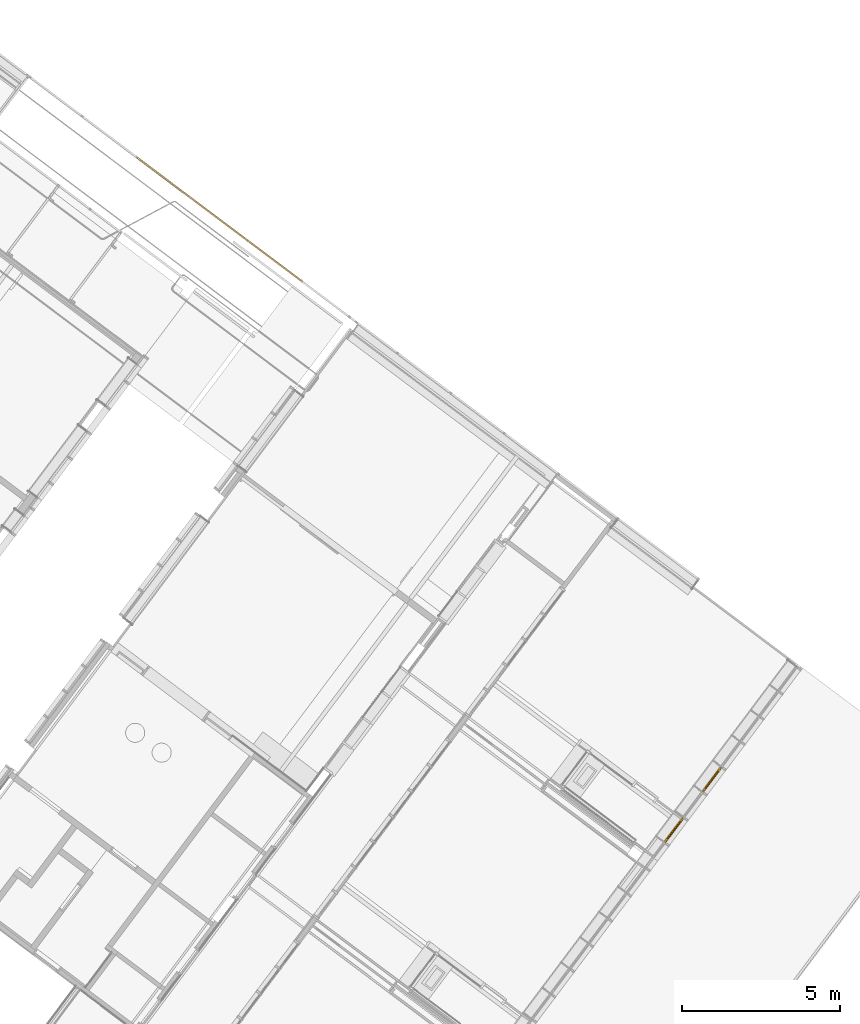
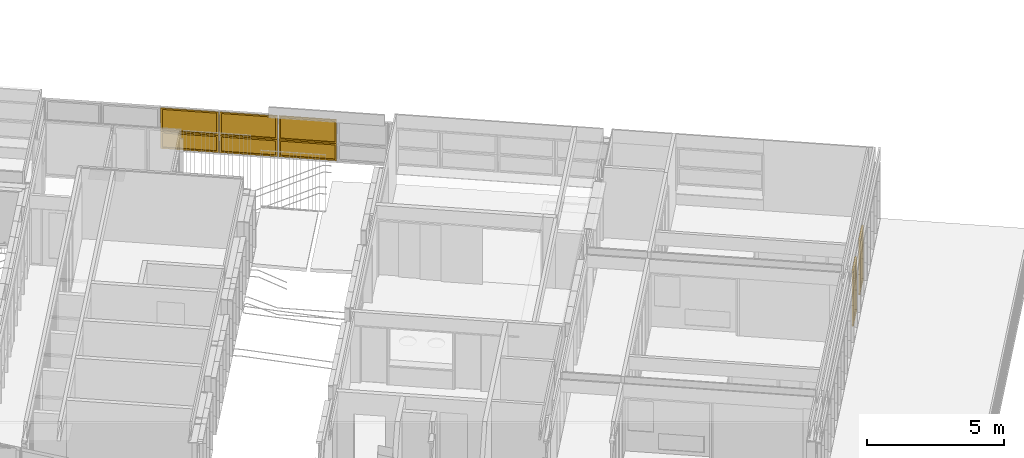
# One storey, part 213 of 243: 6 windows, 2 doors, 2 elements without a shape of their own.
"""IFC2X3 building model written with IfcOpenShell, lengths in metres."""

from ifc_helpers import new_model, entity, si_unit, converted_unit, derived_unit, direction, frame, origin, place, context, subcontext, project, spatial, faceted_brep, source, transform, mapped, material, material_list, type_object, type_shapes, element, aggregate, save


model = new_model("IFC2X3")

# Units and contexts
model_context = context("Model", 3, precision=1e-05, world=origin(), true_north=direction((6.123031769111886e-17, 1.0)))
body_context = subcontext(model_context, "Body", "Model", "MODEL_VIEW")
ifc_project = project(units=[si_unit("LENGTHUNIT", "METRE"), si_unit("AREAUNIT", "SQUARE_METRE"), si_unit("VOLUMEUNIT", "CUBIC_METRE"), converted_unit("PLANEANGLEUNIT", "DEGREE", entity("IfcRatioMeasure", 0.017453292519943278), si_unit("PLANEANGLEUNIT", "RADIAN"), dimensions=[0, 0, 0, 0, 0, 0, 0]), si_unit("MASSUNIT", "GRAM", prefix="KILO"), derived_unit("MASSDENSITYUNIT", [(si_unit("MASSUNIT", "GRAM", prefix="KILO"), 1), (si_unit("LENGTHUNIT", "METRE"), -3)]), derived_unit("IONCONCENTRATIONUNIT", [(si_unit("MASSUNIT", "GRAM", prefix="KILO"), 1), (si_unit("LENGTHUNIT", "METRE"), -3)]), derived_unit("MOMENTOFINERTIAUNIT", [(si_unit("LENGTHUNIT", "METRE"), 4)]), si_unit("TIMEUNIT", "SECOND"), si_unit("FREQUENCYUNIT", "HERTZ"), si_unit("THERMODYNAMICTEMPERATUREUNIT", "DEGREE_CELSIUS"), derived_unit("THERMALTRANSMITTANCEUNIT", [(si_unit("MASSUNIT", "GRAM", prefix="KILO"), 1), (si_unit("THERMODYNAMICTEMPERATUREUNIT", "KELVIN"), -1), (si_unit("TIMEUNIT", "SECOND"), -3)]), derived_unit("THERMALCONDUCTANCEUNIT", [(si_unit("MASSUNIT", "GRAM", prefix="KILO"), 1), (si_unit("THERMODYNAMICTEMPERATUREUNIT", "KELVIN"), -1), (si_unit("TIMEUNIT", "SECOND"), -3), (si_unit("LENGTHUNIT", "METRE"), 1)]), derived_unit("VOLUMETRICFLOWRATEUNIT", [(si_unit("LENGTHUNIT", "METRE"), 3), (si_unit("TIMEUNIT", "SECOND"), -1)]), derived_unit("MASSFLOWRATEUNIT", [(si_unit("MASSUNIT", "GRAM", prefix="KILO"), 1), (si_unit("TIMEUNIT", "SECOND"), -1)]), derived_unit("ROTATIONALFREQUENCYUNIT", [(si_unit("TIMEUNIT", "SECOND"), -1)]), si_unit("ELECTRICCURRENTUNIT", "AMPERE"), si_unit("ELECTRICVOLTAGEUNIT", "VOLT"), si_unit("POWERUNIT", "WATT"), si_unit("FORCEUNIT", "NEWTON", prefix="KILO"), si_unit("ILLUMINANCEUNIT", "LUX"), si_unit("LUMINOUSFLUXUNIT", "LUMEN"), si_unit("LUMINOUSINTENSITYUNIT", "CANDELA"), derived_unit("USERDEFINED", [(si_unit("MASSUNIT", "GRAM", prefix="KILO"), -1), (si_unit("LENGTHUNIT", "METRE"), -2), (si_unit("TIMEUNIT", "SECOND"), 3), (si_unit("LUMINOUSFLUXUNIT", "LUMEN"), 1)]), derived_unit("USERDEFINED", [(si_unit("MASSUNIT", "GRAM", prefix="KILO"), 1), (si_unit("TIMEUNIT", "SECOND"), -3), (si_unit("LENGTHUNIT", "METRE"), 3), (si_unit("ELECTRICCURRENTUNIT", "AMPERE"), -2)]), derived_unit("SOUNDPOWERUNIT", [(si_unit("MASSUNIT", "GRAM", prefix="KILO"), 1), (si_unit("TIMEUNIT", "SECOND"), -3), (si_unit("LENGTHUNIT", "METRE"), 2)]), derived_unit("SOUNDPRESSUREUNIT", [(si_unit("MASSUNIT", "GRAM", prefix="KILO"), 1), (si_unit("LENGTHUNIT", "METRE"), -1), (si_unit("TIMEUNIT", "SECOND"), -2)]), derived_unit("LINEARVELOCITYUNIT", [(si_unit("LENGTHUNIT", "METRE"), 1), (si_unit("TIMEUNIT", "SECOND"), -1)]), si_unit("PRESSUREUNIT", "PASCAL"), derived_unit("USERDEFINED", [(si_unit("MASSUNIT", "GRAM", prefix="KILO"), 1), (si_unit("LENGTHUNIT", "METRE"), -2), (si_unit("TIMEUNIT", "SECOND"), -2)]), derived_unit("LINEARFORCEUNIT", [(si_unit("MASSUNIT", "GRAM", prefix="KILO"), 1), (si_unit("TIMEUNIT", "SECOND"), -2)]), derived_unit("PLANARFORCEUNIT", [(si_unit("MASSUNIT", "GRAM", prefix="KILO"), 1), (si_unit("LENGTHUNIT", "METRE"), -1), (si_unit("TIMEUNIT", "SECOND"), -2)]), derived_unit("SPECIFICHEATCAPACITYUNIT", [(si_unit("THERMODYNAMICTEMPERATUREUNIT", "KELVIN"), -1), (si_unit("LENGTHUNIT", "METRE"), 2), (si_unit("TIMEUNIT", "SECOND"), -2)]), derived_unit("HEATINGVALUEUNIT", [(si_unit("LENGTHUNIT", "METRE"), 2), (si_unit("TIMEUNIT", "SECOND"), -2)]), derived_unit("VAPORPERMEABILITYUNIT", [(si_unit("LENGTHUNIT", "METRE"), -1), (si_unit("TIMEUNIT", "SECOND"), 1)]), derived_unit("DYNAMICVISCOSITYUNIT", [(si_unit("MASSUNIT", "GRAM", prefix="KILO"), 1), (si_unit("TIMEUNIT", "SECOND"), -1), (si_unit("LENGTHUNIT", "METRE"), -1)]), derived_unit("THERMALEXPANSIONCOEFFICIENTUNIT", [(si_unit("THERMODYNAMICTEMPERATUREUNIT", "KELVIN"), -1)]), derived_unit("MODULUSOFELASTICITYUNIT", [(si_unit("MASSUNIT", "GRAM", prefix="KILO"), 1), (si_unit("LENGTHUNIT", "METRE"), -1), (si_unit("TIMEUNIT", "SECOND"), -2)]), derived_unit("ISOTHERMALMOISTURECAPACITYUNIT", [(si_unit("LENGTHUNIT", "METRE"), 3), (si_unit("MASSUNIT", "GRAM", prefix="KILO"), -1)]), derived_unit("MOISTUREDIFFUSIVITYUNIT", [(si_unit("TIMEUNIT", "SECOND"), -1), (si_unit("LENGTHUNIT", "METRE"), 2)])], contexts=[model_context])

# Site, building, storey
site_placement = place(None, frame((0.0, 0.0, 235.0), z_axis=(0.0, 0.0, 1.0), x_axis=(-0.7996477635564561, 0.6004693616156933, 0.0)))
site = spatial("IfcSite", under=ifc_project, at=site_placement, Name="Default", CompositionType="ELEMENT")
building_placement = place(site_placement, origin())
building = spatial("IfcBuilding", under=site, at=building_placement, CompositionType="ELEMENT")
storey_placement = place(building_placement, origin())
storey = spatial("IfcBuildingStorey", under=building, at=storey_placement, Name="P0- Escola", CompositionType="ELEMENT", Elevation=0.0)

# Curtain wall, doors
curtain_wall_type_1 = type_object("IfcCurtainWallType", Name="Muro cortina:MC- EXT- MC2", PredefinedType="NOTDEFINED")
curtain_wall_1_placement = place(storey_placement, origin())
curtain_wall_1 = element("IfcCurtainWall", 1, at=curtain_wall_1_placement, inside=storey, type_object=curtain_wall_type_1, Name="Muro cortina:MC- EXT- MC2", ObjectType="Muro cortina:MC- EXT- MC2")
ifc_material_1 = material(Name="_Alumini- T1- Perfil")
ifc_material_2 = material(Name="_Vidre")
ifc_material_list_1 = material_list([ifc_material_1, ifc_material_2])
door_style_1 = type_object("IfcDoorStyle", Name="MC- Alu- Conjunt porta- 70x60 cm- +15cm- obertura int:MC- Alu- Conjunt porta- 70x60 cm- +15cm- obertura int", ConstructionType="NOTDEFINED", OperationType="NOTDEFINED", ParameterTakesPrecedence=False, Sizeable=False, material=ifc_material_list_1)
shared_shape_1 = source(origin(), body_context, "Body", "Brep", [
    faceted_brep([(-0.41169999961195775, 0.0, 0.024000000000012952), (0.41169999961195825, 0.0, 0.024000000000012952), (0.41169999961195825, -0.06569970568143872, 0.024000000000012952), (-0.4116999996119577, -0.0656997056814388, 0.024000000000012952), (-0.41169999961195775, -0.0656997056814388, 2.3904499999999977), (-0.41169999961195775, 0.0, 2.3904499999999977), (0.4116999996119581, -0.06569970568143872, 2.3904499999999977), (0.43569999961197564, -0.06569970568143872, 0.0), (-0.43569999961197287, -0.06569970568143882, 0.0), (-0.4356999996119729, -0.06569970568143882, 2.414450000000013), (0.43569999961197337, -0.06569970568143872, 2.414450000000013), (0.41169999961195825, 0.0, 2.3904499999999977), (-0.3350999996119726, 0.0, 2.3138500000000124), (-0.3350999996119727, 0.0, 0.20400000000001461), (0.33509999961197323, 0.0, 0.20400000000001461), (0.33509999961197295, 0.0, 2.313850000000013), (0.43569999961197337, -0.0699997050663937, 2.414450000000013), (0.43569999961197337, -0.0699997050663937, 0.0), (-0.43569999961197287, -0.06999970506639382, 0.0), (-0.4356999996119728, -0.06999970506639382, 2.4144500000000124), (0.33509999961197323, -0.06999970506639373, 2.313850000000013), (0.3350999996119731, -0.06999970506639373, 0.20400000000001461), (-0.3350999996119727, -0.06999970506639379, 0.20400000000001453), (-0.33509999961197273, -0.06999970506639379, 2.313850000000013), (0.33509999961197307, -0.06449970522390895, 2.313850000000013), (0.33509999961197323, -0.06449970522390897, 0.20400000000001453), (-0.3350999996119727, -0.06449970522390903, 0.20400000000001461), (-0.3350999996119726, -0.06449970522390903, 2.3138500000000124), (0.3601000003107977, -0.06449970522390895, 2.3388500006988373), (0.3601000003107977, -0.06449970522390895, 0.17899999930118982), (-0.36010000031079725, -0.06449970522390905, 0.17899999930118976), (-0.36010000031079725, -0.06449970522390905, 2.3388500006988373), (0.3601000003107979, -0.01899970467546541, 2.3388500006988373), (0.3601000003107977, -0.01899970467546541, 0.17899999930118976), (-0.36010000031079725, -0.018999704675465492, 0.17899999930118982), (-0.36010000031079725, -0.01899970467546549, 2.3388500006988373), (0.33509999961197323, -0.018999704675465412, 2.313850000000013), (0.3350999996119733, -0.018999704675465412, 0.20400000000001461), (-0.3350999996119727, -0.018999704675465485, 0.20400000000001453), (-0.33509999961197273, -0.018999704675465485, 2.313850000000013)], [[[0, 1, 2, 3]], [[4, 5, 0, 3]], [[2, 6, 4, 3], [7, 8, 9, 10]], [[2, 1, 11, 6]], [[11, 1, 0, 5], [12, 13, 14, 15]], [[16, 17, 7, 10]], [[8, 7, 17, 18]], [[18, 17, 16, 19], [20, 21, 22, 23]], [[24, 25, 21, 20]], [[21, 25, 26, 22]], [[27, 26, 25, 24], [28, 29, 30, 31]], [[32, 33, 29, 28]], [[33, 34, 30, 29]], [[35, 34, 33, 32], [36, 37, 38, 39]], [[15, 14, 37, 36]], [[37, 14, 13, 38]], [[9, 8, 18, 19]], [[23, 22, 26, 27]], [[31, 30, 34, 35]], [[39, 38, 13, 12]], [[19, 16, 10, 9]], [[27, 24, 20, 23]], [[35, 32, 28, 31]], [[12, 15, 36, 39]], [[4, 6, 11, 5]]], outer=[[True], [True], [False, True], [True], [True, False], [True], [True], [True, False], [True], [True], [False, True], [True], [True], [True, False], [True], [True], [True], [True], [True], [True], [True], [True], [True], [True], [True]]),
    faceted_brep([(0.3601000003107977, -0.06089980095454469, 0.17899999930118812), (-0.3601000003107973, -0.06089980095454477, 0.17899999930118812), (-0.36010000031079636, -0.028899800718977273, 0.17899999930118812), (0.3601000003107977, -0.02889980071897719, 0.17899999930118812), (0.3601000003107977, -0.060899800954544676, 2.3388500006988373), (0.3601000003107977, -0.02889980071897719, 2.3388500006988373), (-0.36010000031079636, -0.028899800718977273, 2.3388500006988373), (-0.3601000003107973, -0.06089980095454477, 2.3388500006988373)], [[[0, 1, 2, 3]], [[4, 0, 3, 5]], [[5, 3, 2, 6]], [[6, 2, 1, 7]], [[7, 1, 0, 4]], [[4, 5, 6, 7]]]),
    faceted_brep([(-0.48499999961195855, -0.06999999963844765, 0.0), (-0.48499999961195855, 0.0, 0.0), (-0.4176999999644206, 0.0, 0.0), (-0.4176999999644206, -0.008800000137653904, 0.0), (-0.4331999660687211, -0.008800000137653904, 0.0), (-0.4331999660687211, -0.059699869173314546, 0.0), (-0.44369999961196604, -0.059699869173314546, 0.0), (-0.44369999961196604, -0.06999999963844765, 0.0), (-0.44369999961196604, -0.06999999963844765, 2.4224500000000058), (0.44369999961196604, -0.06999999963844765, 2.4224500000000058), (0.44369999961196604, -0.06999999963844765, 0.0), (0.48499999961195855, -0.06999999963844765, 0.0), (0.48499999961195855, -0.06999999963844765, 2.4637499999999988), (-0.4849999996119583, -0.06999999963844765, 2.4637499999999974), (-0.44369999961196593, -0.059699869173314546, 2.4224500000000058), (-0.4331999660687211, -0.059699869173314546, 2.4119499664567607), (0.4331999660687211, -0.059699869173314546, 2.4119499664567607), (0.4331999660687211, -0.059699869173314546, 0.0), (0.44369999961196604, -0.059699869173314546, 0.0), (0.44369999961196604, -0.059699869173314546, 2.4224500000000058), (-0.4331999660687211, -0.008800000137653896, 2.4119499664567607), (-0.4176999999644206, -0.008800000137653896, 2.39645000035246), (0.4176999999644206, -0.008800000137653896, 2.39645000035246), (0.4176999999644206, -0.008800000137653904, 0.0), (0.4331999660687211, -0.008800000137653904, 0.0), (0.4331999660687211, -0.008800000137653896, 2.4119499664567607), (-0.4176999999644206, 0.0, 2.39645000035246), (-0.48499999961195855, 0.0, 2.4637499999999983), (0.48499999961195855, 0.0, 2.4637499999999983), (0.48499999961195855, 0.0, 0.0), (0.4176999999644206, 0.0, 0.0), (0.4176999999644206, 0.0, 2.39645000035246)], [[[0, 1, 2, 3, 4, 5, 6, 7]], [[7, 8, 9, 10, 11, 12, 13, 0]], [[6, 14, 8, 7]], [[5, 15, 16, 17, 18, 19, 14, 6]], [[4, 20, 15, 5]], [[3, 21, 22, 23, 24, 25, 20, 4]], [[2, 26, 21, 3]], [[1, 27, 28, 29, 30, 31, 26, 2]], [[0, 13, 27, 1]], [[11, 10, 18, 17, 24, 23, 30, 29]], [[12, 11, 29, 28]], [[31, 30, 23, 22]], [[25, 24, 17, 16]], [[19, 18, 10, 9]], [[14, 19, 9, 8]], [[20, 25, 16, 15]], [[26, 31, 22, 21]], [[13, 12, 28, 27]]]),
])
type_shapes(door_style_1, [shared_shape_1])
door_1_placement = place(curtain_wall_1_placement, frame((5.8851476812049, -35.490191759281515, 0.020000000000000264), z_axis=(0.0, 0.0, 1.0), x_axis=(0.0, 1.0, 0.0)))
door_1 = element("IfcDoor", 2, at=door_1_placement, type_object=door_style_1, material=ifc_material_list_1, Name="MC- Alu- Conjunt porta- 70x60 cm- +15cm- obertura int:MC- Alu- Conjunt porta- 70x60 cm- +15cm- obertura int", ObjectType="MC- Alu- Conjunt porta- 70x60 cm- +15cm- obertura int:MC- Alu- Conjunt porta- 70x60 cm- +15cm- obertura int", OverallHeight=2.463750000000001, OverallWidth=0.9699999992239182, context=body_context, shape_type="MappedRepresentation", body=[
    mapped(shared_shape_1, transform((0.0, 0.0, 0.0), scale=1.0)),
])
door_style_2 = type_object("IfcDoorStyle", Name="MC- Alu- Conjunt porta- 70x60 cm- +15cm- obertura int:MC- Alu- Conjunt porta- 70x60 cm- +15cm- obertura int", ConstructionType="NOTDEFINED", OperationType="NOTDEFINED", ParameterTakesPrecedence=False, Sizeable=False, material=ifc_material_list_1)
shared_shape_2 = source(origin(), body_context, "Body", "Brep", [
    faceted_brep([(-0.4116999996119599, 0.0, 0.024000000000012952), (0.4116999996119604, 0.0, 0.024000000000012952), (0.4116999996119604, -0.06569970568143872, 0.024000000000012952), (-0.41169999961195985, -0.0656997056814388, 0.024000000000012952), (-0.4116999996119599, -0.0656997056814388, 2.3781499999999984), (-0.4116999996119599, 0.0, 2.3781499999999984), (0.41169999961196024, -0.06569970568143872, 2.3781499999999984), (0.4356999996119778, -0.06569970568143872, 0.0), (-0.43569999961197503, -0.06569970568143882, 0.0), (-0.4356999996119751, -0.06569970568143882, 2.4021500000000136), (0.43569999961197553, -0.06569970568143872, 2.4021500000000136), (0.4116999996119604, 0.0, 2.3781499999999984), (-0.3350999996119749, 0.0, 2.3015500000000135), (-0.33509999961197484, 0.0, 0.20400000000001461), (0.3350999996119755, 0.0, 0.20400000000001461), (0.33509999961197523, 0.0, 2.3015500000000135), (0.43569999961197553, -0.0699997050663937, 2.4021500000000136), (0.43569999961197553, -0.0699997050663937, 0.0), (-0.43569999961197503, -0.06999970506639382, 0.0), (-0.4356999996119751, -0.06999970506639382, 2.4021500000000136), (0.3350999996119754, -0.06999970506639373, 2.3015500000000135), (0.3350999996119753, -0.06999970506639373, 0.20400000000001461), (-0.33509999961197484, -0.06999970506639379, 0.20400000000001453), (-0.3350999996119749, -0.06999970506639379, 2.3015500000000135), (0.33509999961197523, -0.06449970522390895, 2.3015500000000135), (0.3350999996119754, -0.06449970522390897, 0.20400000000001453), (-0.33509999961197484, -0.06449970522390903, 0.20400000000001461), (-0.3350999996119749, -0.06449970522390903, 2.3015500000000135), (0.36010000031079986, -0.06449970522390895, 2.326550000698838), (0.36010000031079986, -0.06449970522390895, 0.17899999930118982), (-0.3601000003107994, -0.06449970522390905, 0.17899999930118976), (-0.3601000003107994, -0.06449970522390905, 2.326550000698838), (0.3601000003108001, -0.01899970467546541, 2.326550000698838), (0.36010000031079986, -0.018999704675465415, 0.17899999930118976), (-0.3601000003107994, -0.018999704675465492, 0.17899999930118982), (-0.36010000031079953, -0.01899970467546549, 2.326550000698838), (0.3350999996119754, -0.018999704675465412, 2.3015500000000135), (0.33509999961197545, -0.018999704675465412, 0.20400000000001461), (-0.33509999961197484, -0.018999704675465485, 0.20400000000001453), (-0.3350999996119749, -0.018999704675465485, 2.3015500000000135)], [[[0, 1, 2, 3]], [[4, 5, 0, 3]], [[2, 6, 4, 3], [7, 8, 9, 10]], [[2, 1, 11, 6]], [[11, 1, 0, 5], [12, 13, 14, 15]], [[16, 17, 7, 10]], [[8, 7, 17, 18]], [[18, 17, 16, 19], [20, 21, 22, 23]], [[24, 25, 21, 20]], [[21, 25, 26, 22]], [[27, 26, 25, 24], [28, 29, 30, 31]], [[32, 33, 29, 28]], [[33, 34, 30, 29]], [[35, 34, 33, 32], [36, 37, 38, 39]], [[15, 14, 37, 36]], [[37, 14, 13, 38]], [[9, 8, 18, 19]], [[23, 22, 26, 27]], [[31, 30, 34, 35]], [[39, 38, 13, 12]], [[19, 16, 10, 9]], [[27, 24, 20, 23]], [[35, 32, 28, 31]], [[12, 15, 36, 39]], [[4, 6, 11, 5]]], outer=[[True], [True], [False, True], [True], [True, False], [True], [True], [True, False], [True], [True], [False, True], [True], [True], [True, False], [True], [True], [True], [True], [True], [True], [True], [True], [True], [True], [True]]),
    faceted_brep([(0.36010000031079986, -0.06089980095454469, 0.17899999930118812), (-0.3601000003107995, -0.06089980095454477, 0.17899999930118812), (-0.36010000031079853, -0.028899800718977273, 0.17899999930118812), (0.36010000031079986, -0.02889980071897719, 0.17899999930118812), (0.36010000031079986, -0.060899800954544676, 2.326550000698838), (0.36010000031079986, -0.02889980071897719, 2.326550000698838), (-0.36010000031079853, -0.028899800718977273, 2.326550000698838), (-0.3601000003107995, -0.06089980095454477, 2.326550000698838)], [[[0, 1, 2, 3]], [[4, 0, 3, 5]], [[5, 3, 2, 6]], [[6, 2, 1, 7]], [[7, 1, 0, 4]], [[4, 5, 6, 7]]]),
    faceted_brep([(-0.4849999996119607, -0.06999999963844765, 0.0), (-0.4849999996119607, 0.0, 0.0), (-0.41769999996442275, 0.0, 0.0), (-0.41769999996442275, -0.008800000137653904, 0.0), (-0.43319996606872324, -0.008800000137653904, 0.0), (-0.43319996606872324, -0.059699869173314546, 0.0), (-0.4436999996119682, -0.059699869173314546, 0.0), (-0.4436999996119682, -0.06999999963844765, 0.0), (-0.4436999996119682, -0.06999999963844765, 2.4101500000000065), (0.4436999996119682, -0.06999999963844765, 2.4101500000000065), (0.4436999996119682, -0.06999999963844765, 0.0), (0.4849999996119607, -0.06999999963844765, 0.0), (0.4849999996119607, -0.06999999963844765, 2.4514499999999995), (-0.48499999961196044, -0.06999999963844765, 2.451449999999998), (-0.4436999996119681, -0.059699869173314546, 2.4101500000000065), (-0.43319996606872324, -0.059699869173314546, 2.3996499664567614), (0.43319996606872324, -0.059699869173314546, 2.3996499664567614), (0.43319996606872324, -0.059699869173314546, 0.0), (0.4436999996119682, -0.059699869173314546, 0.0), (0.4436999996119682, -0.059699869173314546, 2.4101500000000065), (-0.4331999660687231, -0.008800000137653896, 2.3996499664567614), (-0.41769999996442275, -0.008800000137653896, 2.3841500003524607), (0.41769999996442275, -0.008800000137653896, 2.3841500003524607), (0.41769999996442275, -0.008800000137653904, 0.0), (0.43319996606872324, -0.008800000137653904, 0.0), (0.43319996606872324, -0.008800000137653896, 2.3996499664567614), (-0.4176999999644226, 0.0, 2.3841500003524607), (-0.4849999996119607, 0.0, 2.4514499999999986), (0.4849999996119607, 0.0, 2.4514499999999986), (0.4849999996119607, 0.0, 0.0), (0.41769999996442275, 0.0, 0.0), (0.41769999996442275, 0.0, 2.3841500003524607)], [[[0, 1, 2, 3, 4, 5, 6, 7]], [[7, 8, 9, 10, 11, 12, 13, 0]], [[6, 14, 8, 7]], [[5, 15, 16, 17, 18, 19, 14, 6]], [[4, 20, 15, 5]], [[3, 21, 22, 23, 24, 25, 20, 4]], [[2, 26, 21, 3]], [[1, 27, 28, 29, 30, 31, 26, 2]], [[0, 13, 27, 1]], [[11, 10, 18, 17, 24, 23, 30, 29]], [[12, 11, 29, 28]], [[31, 30, 23, 22]], [[25, 24, 17, 16]], [[19, 18, 10, 9]], [[14, 19, 9, 8]], [[20, 25, 16, 15]], [[26, 31, 22, 21]], [[13, 12, 28, 27]]]),
])
type_shapes(door_style_2, [shared_shape_2])
door_2_placement = place(curtain_wall_1_placement, frame((5.885147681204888, -37.49019175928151, 0.03229999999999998), z_axis=(0.0, 0.0, 1.0), x_axis=(0.0, 1.0, 0.0)))
door_2 = element("IfcDoor", 3, at=door_2_placement, type_object=door_style_2, material=ifc_material_list_1, Name="MC- Alu- Conjunt porta- 70x60 cm- +15cm- obertura int:MC- Alu- Conjunt porta- 70x60 cm- +15cm- obertura int", ObjectType="MC- Alu- Conjunt porta- 70x60 cm- +15cm- obertura int:MC- Alu- Conjunt porta- 70x60 cm- +15cm- obertura int", OverallHeight=2.4514500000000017, OverallWidth=0.9699999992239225, context=body_context, shape_type="MappedRepresentation", body=[
    mapped(shared_shape_2, transform((0.0, 0.0, 0.0), scale=1.0)),
])
aggregate(curtain_wall_1, [door_1, door_2])

# Curtain wall, windows
curtain_wall_type_2 = type_object("IfcCurtainWallType", Name="Muro cortina:MC- EXT- MC9", PredefinedType="NOTDEFINED")
curtain_wall_2_placement = place(storey_placement, origin())
curtain_wall_2 = element("IfcCurtainWall", 4, at=curtain_wall_2_placement, inside=storey, type_object=curtain_wall_type_2, Name="Muro cortina:MC- EXT- MC9", ObjectType="Muro cortina:MC- EXT- MC9")
ifc_material_list_2 = material_list([ifc_material_2, ifc_material_1])
window_style_1 = type_object("IfcWindowStyle", Name="MC- Alu- Conjunt vidre fix- 62x60 cm:MC- Alu- Conjunt vidre fix- 62x60 cm", ConstructionType="NOTDEFINED", OperationType="NOTDEFINED", ParameterTakesPrecedence=False, Sizeable=False, material=ifc_material_list_2)
shared_shape_3 = source(origin(), body_context, "Body", "Brep", [
    faceted_brep([(1.0146932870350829, -0.007600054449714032, 0.048806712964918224), (1.0146932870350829, -0.03160022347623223, 0.048806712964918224), (-1.0146932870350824, -0.03160022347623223, 0.048806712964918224), (-1.0146932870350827, -0.007600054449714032, 0.048806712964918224), (1.0146932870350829, -0.007600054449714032, 0.7160000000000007), (-1.0146932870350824, -0.007600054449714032, 0.7160000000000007), (-1.0146932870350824, -0.03160022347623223, 0.7160000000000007), (1.0146932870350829, -0.03160022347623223, 0.7160000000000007)], [[[0, 1, 2, 3]], [[4, 0, 3, 5]], [[5, 3, 2, 6]], [[6, 2, 1, 7]], [[7, 1, 0, 4]], [[4, 5, 6, 7]]]),
    faceted_brep([(1.0635000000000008, -0.05999999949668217, 0.7650000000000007), (1.0635000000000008, -0.05999999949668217, 0.0), (1.0635000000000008, 0.0, 0.0), (1.0635000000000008, 0.0, 0.765000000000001), (-1.0635000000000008, 0.0, 0.7650000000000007), (-1.0635000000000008, 0.0, 0.0), (1.0006931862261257, 0.0, 0.7021931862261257), (-1.0006931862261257, 0.0, 0.7021931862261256), (-1.0006931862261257, 0.0, 0.06280681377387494), (1.0006931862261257, 0.0, 0.06280681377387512), (-1.0635000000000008, -0.05999999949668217, 0.0), (-1.0635000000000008, -0.05999999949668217, 0.7650000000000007), (-1.000696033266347, -0.05999999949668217, 0.7021960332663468), (1.000696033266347, -0.05999999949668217, 0.7021960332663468), (1.000696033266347, -0.05999999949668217, 0.06280396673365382), (-1.000696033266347, -0.05999999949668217, 0.06280396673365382), (1.000696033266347, -0.03160022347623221, 0.7021960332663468), (1.000696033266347, -0.03160022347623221, 0.06280396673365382), (-1.000696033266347, -0.03160022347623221, 0.06280396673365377), (-1.000696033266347, -0.03160022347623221, 0.7021960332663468), (-1.0146932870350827, -0.03160022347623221, 0.7161932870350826), (1.0146932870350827, -0.03160022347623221, 0.7161932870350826), (1.0146932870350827, -0.03160022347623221, 0.048806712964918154), (-1.0146932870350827, -0.03160022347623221, 0.04880671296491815), (1.0146932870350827, -0.007600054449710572, 0.7161932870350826), (1.0146932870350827, -0.007600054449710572, 0.04880671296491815), (-1.0146932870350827, -0.007600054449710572, 0.048806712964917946), (-1.0146932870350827, -0.007600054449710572, 0.7161932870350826), (-1.0006931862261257, -0.007600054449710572, 0.7021931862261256), (1.0006931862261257, -0.007600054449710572, 0.7021931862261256), (1.0006931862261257, -0.007600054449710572, 0.06280681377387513), (-1.0006931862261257, -0.007600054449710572, 0.06280681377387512)], [[[0, 1, 2, 3]], [[4, 3, 2, 5], [6, 7, 8, 9]], [[1, 10, 5, 2]], [[0, 11, 10, 1], [12, 13, 14, 15]], [[16, 17, 14, 13]], [[17, 18, 15, 14]], [[16, 19, 18, 17], [20, 21, 22, 23]], [[24, 25, 22, 21]], [[25, 26, 23, 22]], [[24, 27, 26, 25], [28, 29, 30, 31]], [[6, 9, 30, 29]], [[9, 8, 31, 30]], [[10, 11, 4, 5]], [[18, 19, 12, 15]], [[26, 27, 20, 23]], [[8, 7, 28, 31]], [[11, 0, 3, 4]], [[19, 16, 13, 12]], [[27, 24, 21, 20]], [[7, 6, 29, 28]]], outer=[[True], [True, False], [True], [True, False], [True], [True], [False, True], [True], [True], [True, False], [True], [True], [True], [True], [True], [True], [True], [True], [True], [True]]),
])
type_shapes(window_style_1, [shared_shape_3])
window_1_placement = place(curtain_wall_2_placement, frame((26.882643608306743, -42.34019175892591, 0.685), z_axis=(0.0, 0.0, 1.0), x_axis=(-1.0, 0.0, 0.0)))
window_1 = element("IfcWindow", 5, at=window_1_placement, type_object=window_style_1, material=ifc_material_list_2, Name="MC- Alu- Conjunt vidre fix- 62x60 cm:MC- Alu- Conjunt vidre fix- 62x60 cm", ObjectType="MC- Alu- Conjunt vidre fix- 62x60 cm:MC- Alu- Conjunt vidre fix- 62x60 cm", OverallHeight=0.7650000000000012, OverallWidth=2.127000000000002, context=body_context, shape_type="MappedRepresentation", body=[
    mapped(shared_shape_3, transform((0.0, 0.0, 0.0), scale=1.0)),
])
window_2_placement = place(curtain_wall_2_placement, frame((29.059643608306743, -42.34019175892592, 0.685), z_axis=(0.0, 0.0, 1.0), x_axis=(-1.0, 0.0, 0.0)))
window_2 = element("IfcWindow", 6, at=window_2_placement, type_object=window_style_1, material=ifc_material_list_2, Name="MC- Alu- Conjunt vidre fix- 62x60 cm:MC- Alu- Conjunt vidre fix- 62x60 cm", ObjectType="MC- Alu- Conjunt vidre fix- 62x60 cm:MC- Alu- Conjunt vidre fix- 62x60 cm", OverallHeight=0.7650000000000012, OverallWidth=2.127000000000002, context=body_context, shape_type="MappedRepresentation", body=[
    mapped(shared_shape_3, transform((0.0, 0.0, 0.0), scale=1.0)),
])
window_3_placement = place(curtain_wall_2_placement, frame((31.236643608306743, -42.340191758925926, 0.685), z_axis=(0.0, 0.0, 1.0), x_axis=(-1.0, 0.0, 0.0)))
window_3 = element("IfcWindow", 7, at=window_3_placement, type_object=window_style_1, material=ifc_material_list_2, Name="MC- Alu- Conjunt vidre fix- 62x60 cm:MC- Alu- Conjunt vidre fix- 62x60 cm", ObjectType="MC- Alu- Conjunt vidre fix- 62x60 cm:MC- Alu- Conjunt vidre fix- 62x60 cm", OverallHeight=0.7650000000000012, OverallWidth=2.127000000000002, context=body_context, shape_type="MappedRepresentation", body=[
    mapped(shared_shape_3, transform((0.0, 0.0, 0.0), scale=1.0)),
])
window_style_2 = type_object("IfcWindowStyle", Name="MC- Alu- Conjunt vidre fix- 62x60 cm:MC- Alu- Conjunt vidre fix- 62x60 cm", ConstructionType="NOTDEFINED", OperationType="NOTDEFINED", ParameterTakesPrecedence=False, Sizeable=False, material=ifc_material_list_2)
shared_shape_4 = source(origin(), body_context, "Body", "Brep", [
    faceted_brep([(1.0146932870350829, -0.007600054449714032, 0.048806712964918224), (1.0146932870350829, -0.03160022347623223, 0.048806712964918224), (-1.0146932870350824, -0.03160022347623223, 0.048806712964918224), (-1.0146932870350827, -0.007600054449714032, 0.048806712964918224), (1.0146932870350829, -0.007600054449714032, 1.003500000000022), (-1.0146932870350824, -0.007600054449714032, 1.003500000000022), (-1.0146932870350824, -0.03160022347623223, 1.003500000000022), (1.0146932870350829, -0.03160022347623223, 1.003500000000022)], [[[0, 1, 2, 3]], [[4, 0, 3, 5]], [[5, 3, 2, 6]], [[6, 2, 1, 7]], [[7, 1, 0, 4]], [[4, 5, 6, 7]]]),
    faceted_brep([(1.063500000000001, -0.05999999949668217, 1.052500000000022), (1.0635000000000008, -0.05999999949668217, 0.0), (1.0635000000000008, 0.0, 0.0), (1.0635000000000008, 0.0, 1.0525000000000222), (-1.0635000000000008, 0.0, 1.052500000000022), (-1.0635000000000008, 0.0, 0.0), (1.0006931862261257, 0.0, 0.989693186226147), (-1.0006931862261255, 0.0, 0.9896931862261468), (-1.0006931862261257, 0.0, 0.06280681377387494), (1.0006931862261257, 0.0, 0.06280681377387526), (-1.0635000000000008, -0.05999999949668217, 0.0), (-1.0635000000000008, -0.05999999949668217, 1.0525000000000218), (-1.000696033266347, -0.05999999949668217, 0.9896960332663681), (1.000696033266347, -0.05999999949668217, 0.9896960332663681), (1.000696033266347, -0.05999999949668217, 0.06280396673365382), (-1.000696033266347, -0.05999999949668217, 0.06280396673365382), (1.000696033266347, -0.03160022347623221, 0.9896960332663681), (1.0006960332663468, -0.03160022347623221, 0.06280396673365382), (-1.000696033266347, -0.03160022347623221, 0.06280396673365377), (-1.0006960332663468, -0.03160022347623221, 0.989696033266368), (-1.0146932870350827, -0.03160022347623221, 1.0036932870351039), (1.0146932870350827, -0.03160022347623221, 1.0036932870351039), (1.0146932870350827, -0.03160022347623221, 0.048806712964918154), (-1.0146932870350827, -0.03160022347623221, 0.04880671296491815), (1.0146932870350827, -0.007600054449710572, 1.0036932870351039), (1.0146932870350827, -0.007600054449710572, 0.04880671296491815), (-1.0146932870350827, -0.007600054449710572, 0.048806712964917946), (-1.0146932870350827, -0.007600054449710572, 1.0036932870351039), (-1.0006931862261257, -0.007600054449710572, 0.9896931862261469), (1.0006931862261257, -0.007600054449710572, 0.9896931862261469), (1.0006931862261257, -0.007600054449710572, 0.06280681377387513), (-1.0006931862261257, -0.007600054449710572, 0.06280681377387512)], [[[0, 1, 2, 3]], [[4, 3, 2, 5], [6, 7, 8, 9]], [[1, 10, 5, 2]], [[0, 11, 10, 1], [12, 13, 14, 15]], [[16, 17, 14, 13]], [[17, 18, 15, 14]], [[16, 19, 18, 17], [20, 21, 22, 23]], [[24, 25, 22, 21]], [[25, 26, 23, 22]], [[24, 27, 26, 25], [28, 29, 30, 31]], [[6, 9, 30, 29]], [[9, 8, 31, 30]], [[10, 11, 4, 5]], [[18, 19, 12, 15]], [[26, 27, 20, 23]], [[8, 7, 28, 31]], [[11, 0, 3, 4]], [[19, 16, 13, 12]], [[27, 24, 21, 20]], [[7, 6, 29, 28]]], outer=[[True], [True, False], [True], [True, False], [True], [True], [False, True], [True], [True], [True, False], [True], [True], [True], [True], [True], [True], [True], [True], [True], [True]]),
])
type_shapes(window_style_2, [shared_shape_4])
window_4_placement = place(curtain_wall_2_placement, frame((26.882643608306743, -42.34019175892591, 1.4500000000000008), z_axis=(0.0, 0.0, 1.0), x_axis=(-1.0, 0.0, 0.0)))
window_4 = element("IfcWindow", 8, at=window_4_placement, type_object=window_style_2, material=ifc_material_list_2, Name="MC- Alu- Conjunt vidre fix- 62x60 cm:MC- Alu- Conjunt vidre fix- 62x60 cm", ObjectType="MC- Alu- Conjunt vidre fix- 62x60 cm:MC- Alu- Conjunt vidre fix- 62x60 cm", OverallHeight=1.0525000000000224, OverallWidth=2.127000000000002, context=body_context, shape_type="MappedRepresentation", body=[
    mapped(shared_shape_4, transform((0.0, 0.0, 0.0), scale=1.0)),
])
window_5_placement = place(curtain_wall_2_placement, frame((29.059643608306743, -42.34019175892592, 1.4500000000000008), z_axis=(0.0, 0.0, 1.0), x_axis=(-1.0, 0.0, 0.0)))
window_5 = element("IfcWindow", 9, at=window_5_placement, type_object=window_style_2, material=ifc_material_list_2, Name="MC- Alu- Conjunt vidre fix- 62x60 cm:MC- Alu- Conjunt vidre fix- 62x60 cm", ObjectType="MC- Alu- Conjunt vidre fix- 62x60 cm:MC- Alu- Conjunt vidre fix- 62x60 cm", OverallHeight=1.0525000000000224, OverallWidth=2.127000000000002, context=body_context, shape_type="MappedRepresentation", body=[
    mapped(shared_shape_4, transform((0.0, 0.0, 0.0), scale=1.0)),
])
window_6_placement = place(curtain_wall_2_placement, frame((31.236643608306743, -42.340191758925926, 1.4500000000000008), z_axis=(0.0, 0.0, 1.0), x_axis=(-1.0, 0.0, 0.0)))
window_6 = element("IfcWindow", 10, at=window_6_placement, type_object=window_style_2, material=ifc_material_list_2, Name="MC- Alu- Conjunt vidre fix- 62x60 cm:MC- Alu- Conjunt vidre fix- 62x60 cm", ObjectType="MC- Alu- Conjunt vidre fix- 62x60 cm:MC- Alu- Conjunt vidre fix- 62x60 cm", OverallHeight=1.0525000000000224, OverallWidth=2.127000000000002, context=body_context, shape_type="MappedRepresentation", body=[
    mapped(shared_shape_4, transform((0.0, 0.0, 0.0), scale=1.0)),
])
aggregate(curtain_wall_2, [window_1, window_2, window_3, window_4, window_5, window_6])

save(model, "model.ifc")
